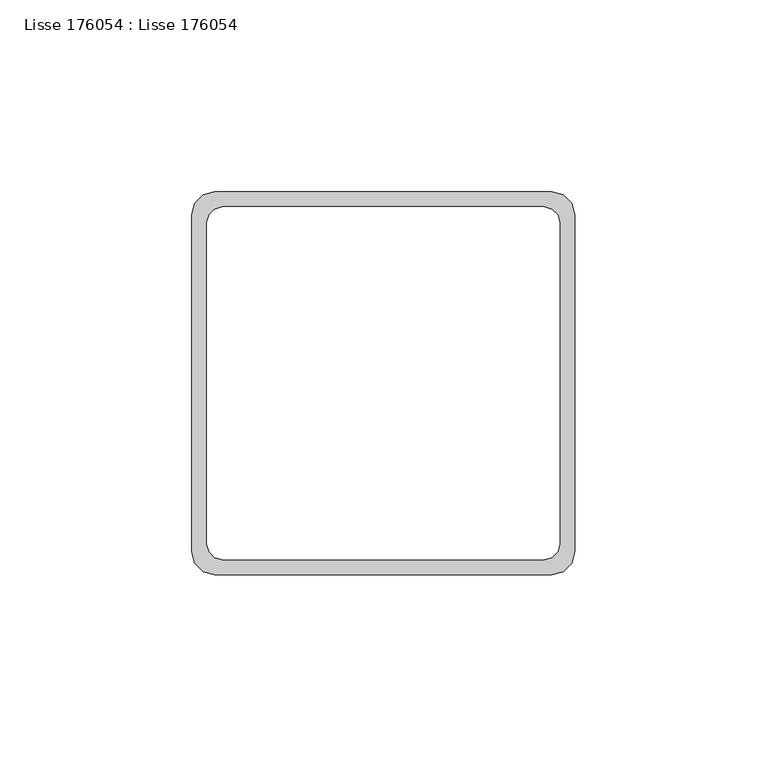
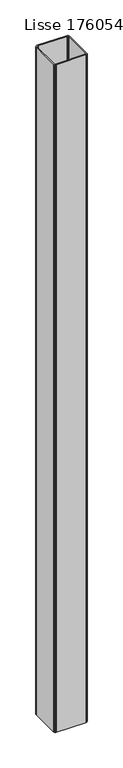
"""IFC4 building model written with IfcOpenShell, lengths in millimetres: beam geometry, Lisse 176054 : Lisse 176054."""

from ifc_helpers import new_model, si_unit, frame, origin, place, context, project, spatial, polyline, outline, extrude, source, transform, mapped, element, save


def lisse_176054_lisse_176054_c7658046(model_context):
    return source(origin(), model_context, "Body", "SweptSolid", [
        extrude(outline(polyline([(-180.0000001, -31406.0), (-179.1961526, -31403.0), (-177.0000001, -31400.8038476), (-174.0000001, -31400.0), (-86.0000001, -31400.0), (-83.0000001, -31400.8038476), (-80.8038477, -31403.0), (-80.0000001, -31406.0), (-80.0000001, -31494.0), (-80.8038477, -31497.0), (-83.0000001, -31499.1961524), (-86.0000001, -31500.0), (-174.0000001, -31500.0), (-177.0000001, -31499.1961524), (-179.1961526, -31497.0), (-180.0000001, -31494.0), (-180.0000001, -31406.0)]), holes=[polyline([(-176.0000001, -31492.0), (-175.4641017, -31494.0), (-174.0000001, -31495.4641016), (-172.0000001, -31496.0), (-88.0000001, -31496.0), (-86.0000001, -31495.4641016), (-84.5358985, -31494.0), (-84.0000001, -31492.0), (-84.0000001, -31408.0), (-84.5358985, -31406.0), (-86.0000001, -31404.5358984), (-88.0000001, -31404.0), (-172.0000001, -31404.0), (-174.0000001, -31404.5358984), (-175.4641017, -31406.0), (-176.0000001, -31408.0), (-176.0000001, -31492.0)])]), frame((0.0, 0.0, 5000.0), z_axis=(0.0, 0.0, 1.0), x_axis=(1.0, 0.0, 0.0)), (0.0, 0.0, 1.0), 2100.0),
    ])


if __name__ == "__main__":
    model = new_model("IFC4")
    model_context = context("Model", 3, world=origin())
    ifc_project = project(units=[si_unit("LENGTHUNIT", "METRE", prefix="MILLI")], contexts=[model_context])
    site = spatial("IfcSite", under=ifc_project)
    building = spatial("IfcBuilding", under=site)
    placement = place(None, origin())
    lisse_176054_lisse_176054_shape = lisse_176054_lisse_176054_c7658046(model_context)
    element("IfcBeam", 1, ObjectType="Lisse 176054 : Lisse 176054", at=placement, inside=building, context=model_context, shape_type="MappedRepresentation", body=[
        mapped(lisse_176054_lisse_176054_shape, transform((0.0, 0.0, 0.0), x_axis=(1.0, 0.0, 0.0), y_axis=(0.0, 1.0, 0.0), z_axis=(0.0, 0.0, 1.0))),
    ])
    save(model, "model.ifc")
